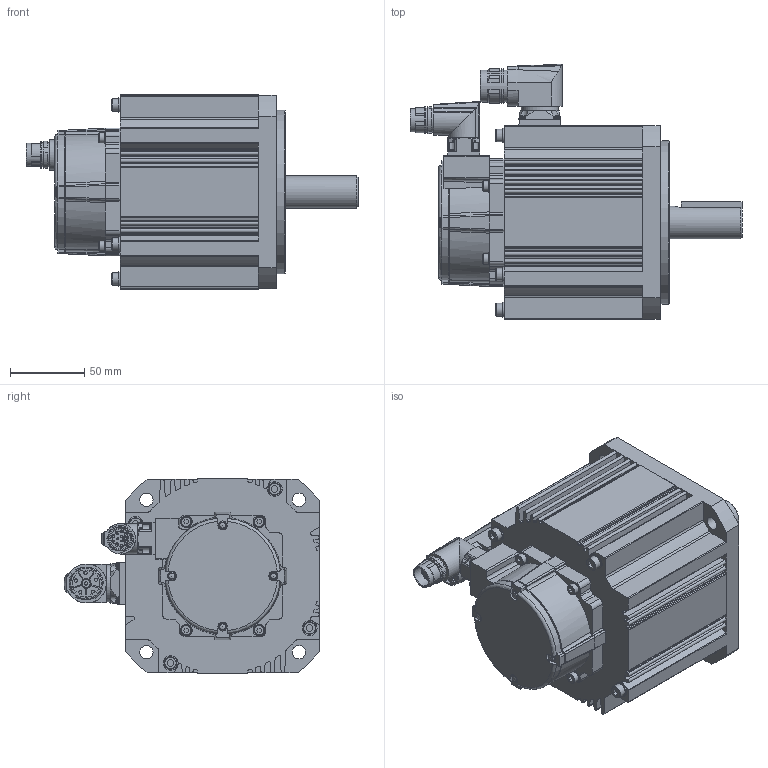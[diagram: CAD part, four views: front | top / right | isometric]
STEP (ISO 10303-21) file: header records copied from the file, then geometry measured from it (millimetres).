
FILE_DESCRIPTION(/* description */ ('STEP AP203'),/* implementation_level */ '2;1');
FILE_NAME(/* name */ 'MDMF204L1G9M',/* time_stamp */ '2026-06-08T17:45:32+02:00',/* author */ ('License CC BY-ND 4.0'),/* organization */ ('CADENAS'),/* preprocessor_version */ 'ST-DEVELOPER v20',/* originating_system */ 'PARTsolutions',/* authorisation */ ' ');
FILE_SCHEMA (('CONFIG_CONTROL_DESIGN'));
Length unit declared in the file: millimetre
Products named in the file (4): MDMF204L1G9M; MDMF204L1G9M-motor; BGC106N00001200000; AGC047N0000150A000_EC
Assembly tree (3 placements, depth 2):
  MDMF204L1G9M
    MDMF204L1G9M-motor
    BGC106N00001200000
    AGC047N0000150A000_EC
Bounding box: 223.25 x 171.8 x 130.6 mm (x, y, z)
Volume: 1915023.5 mm3; surface area: 141032.2 mm2
Topology: 3 solids, 3 shells, 969 faces, 2580 edges, 1690 vertices
Faces by surface type: plane 490, cylinder 358, bspline 45, cone 41, torus 23, sphere 12
Full cylindrical faces by diameter (mm): 1.25 x12, 2.232 x6, 2.459 x1, 2.8 x1, 5.5 x5, 6 x4, 7 x4, 8 x4, 8.5 x4, 9 x4, 10 x4, 13.4 x1, 15.54 x1, 16 x1, 16.2 x1, 19.7 x1, 21.6 x1, 22 x1, 24.1 x1, 34 x1, 110 x1
Entity records: 30263 total; most frequent: CARTESIAN_POINT 6289, DIRECTION 5076, ORIENTED_EDGE 4856, EDGE_CURVE 2428, AXIS2_PLACEMENT_3D 1859, VERTEX_POINT 1643, LINE 1358, VECTOR 1358
